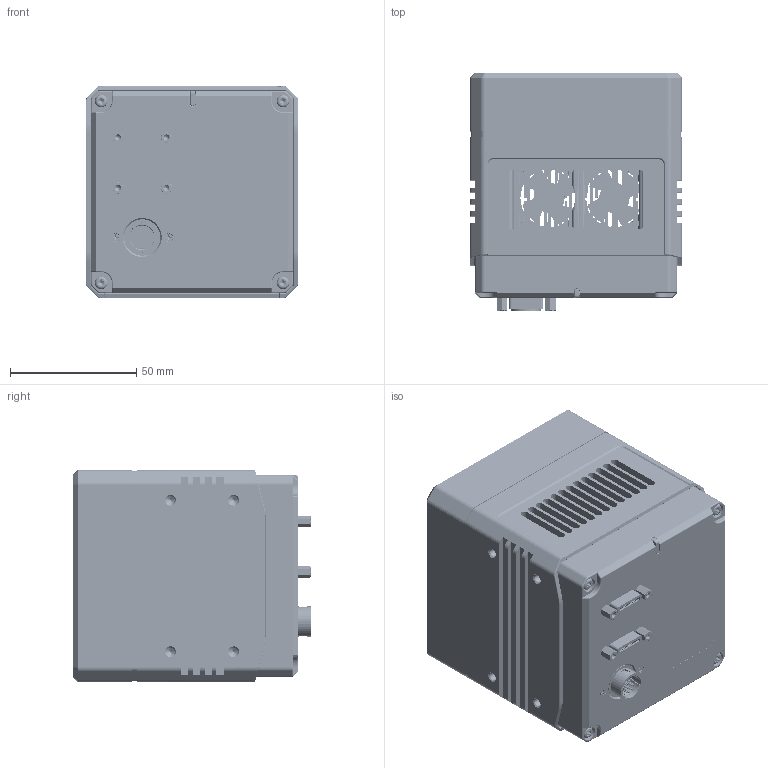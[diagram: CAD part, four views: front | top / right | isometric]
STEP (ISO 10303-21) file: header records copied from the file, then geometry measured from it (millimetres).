
FILE_DESCRIPTION((''),'2;1');
FILE_NAME('8K0_ASM_ASM','2021-10-12T16:22:55',('mafangning'),(''),'CREO PARAMETRIC BY PTC INC, 2020044','CREO PARAMETRIC BY PTC INC, 2020044','');
FILE_SCHEMA(('CONFIG_CONTROL_DESIGN'));
Products named in the file (1): 8K0_ASM_ASM
Bounding box: 84 x 94.22 x 84 mm (x, y, z)
Volume: 405275.6 mm3; surface area: 158495.7 mm2
Topology: 5 solids, 126 shells, 4528 faces, 12071 edges, 7752 vertices
Faces by surface type: plane 2467, cylinder 1453, cone 310, bspline 164, torus 90, extrusion 32, sphere 12
Entity records: 156892 total; most frequent: CARTESIAN_POINT 45119, ORIENTED_EDGE 23564, DIRECTION 22524, EDGE_CURVE 11979, VERTEX_POINT 7752, AXIS2_PLACEMENT_3D 7603, VECTOR 7318, LINE 7286
